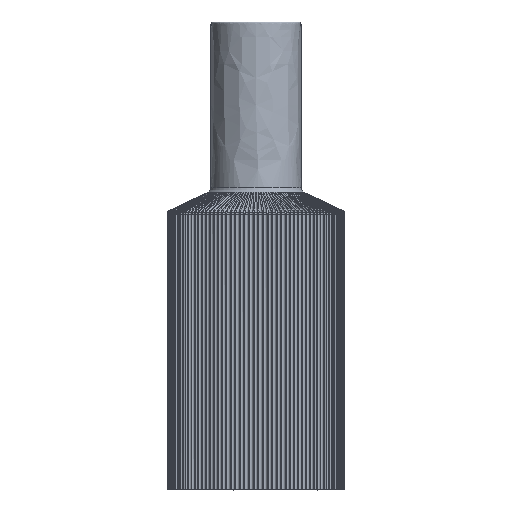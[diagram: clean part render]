
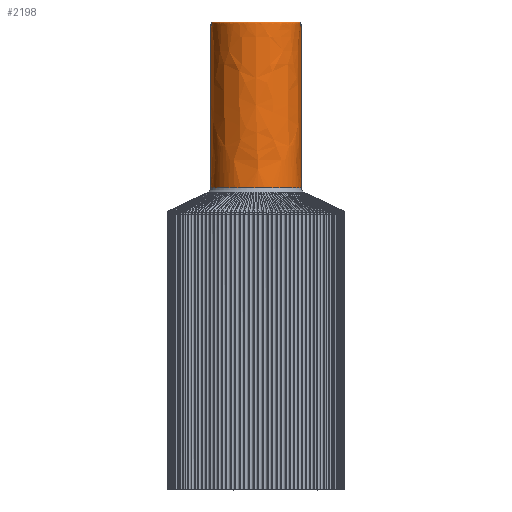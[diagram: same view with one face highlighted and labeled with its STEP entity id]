
A CAD part, front view. The second image highlights one B-rep face of the part: STEP entity #2198.
In plain terms, the highlighted free-form (B-spline) face has degree [2, 2] with [13, 5] control points.
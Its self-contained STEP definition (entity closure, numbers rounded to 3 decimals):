
#2198=ADVANCED_FACE('',(#2932),#12581,.T.);
#2932=FACE_OUTER_BOUND('',#3666,.T.);
#3666=EDGE_LOOP('',(#6584,#6585,#6586,#6587));
#6584=ORIENTED_EDGE('',*,*,#9267,.F.);
#6585=ORIENTED_EDGE('',*,*,#9264,.T.);
#6586=ORIENTED_EDGE('',*,*,#9277,.F.);
#6587=ORIENTED_EDGE('',*,*,#9276,.F.);
#9264=EDGE_CURVE('',#11843,#11846,#10376,.T.);
#9267=EDGE_CURVE('',#11843,#11849,#10378,.T.);
#9276=EDGE_CURVE('',#11849,#11850,#10386,.T.);
#9277=EDGE_CURVE('',#11850,#11846,#10387,.T.);
#10376=(
BOUNDED_CURVE()
B_SPLINE_CURVE(2,(#33861,#33862,#33863,#33864,#33865,#33866,#33867),
 .UNSPECIFIED.,.F.,.F.)
B_SPLINE_CURVE_WITH_KNOTS((3,2,2,3),(280.817,282.292,
376.896,376.919),.UNSPECIFIED.)
CURVE()
GEOMETRIC_REPRESENTATION_ITEM()
RATIONAL_B_SPLINE_CURVE((1.,0.74,1.,1.,1.,1.,
1.))
REPRESENTATION_ITEM('')
);
#10378=(
BOUNDED_CURVE()
B_SPLINE_CURVE(2,(#33875,#33876,#33877,#33878,#33879),.UNSPECIFIED.,.F.,
 .F.)
B_SPLINE_CURVE_WITH_KNOTS((3,2,3),(0.,80.618,161.235),
 .UNSPECIFIED.)
CURVE()
GEOMETRIC_REPRESENTATION_ITEM()
RATIONAL_B_SPLINE_CURVE((1.,0.707,1.,0.707,1.))
REPRESENTATION_ITEM('')
);
#10386=(
BOUNDED_CURVE()
B_SPLINE_CURVE(2,(#33921,#33922,#33923,#33924,#33925,#33926,#33927),
 .UNSPECIFIED.,.F.,.F.)
B_SPLINE_CURVE_WITH_KNOTS((3,2,2,3),(280.817,282.292,
376.896,376.919),.UNSPECIFIED.)
CURVE()
GEOMETRIC_REPRESENTATION_ITEM()
RATIONAL_B_SPLINE_CURVE((1.,0.74,1.,1.,1.,1.,
1.))
REPRESENTATION_ITEM('')
);
#10387=(
BOUNDED_CURVE()
B_SPLINE_CURVE(2,(#33928,#33929,#33930,#33931,#33932),.UNSPECIFIED.,.F.,
 .F.)
B_SPLINE_CURVE_WITH_KNOTS((3,2,3),(-161.235,-80.618,
0.),.UNSPECIFIED.)
CURVE()
GEOMETRIC_REPRESENTATION_ITEM()
RATIONAL_B_SPLINE_CURVE((1.,0.707,1.,0.707,1.))
REPRESENTATION_ITEM('')
);
#11843=VERTEX_POINT('',#33853);
#11846=VERTEX_POINT('',#33856);
#11849=VERTEX_POINT('',#33859);
#11850=VERTEX_POINT('',#33860);
#12581=(
BOUNDED_SURFACE()
B_SPLINE_SURFACE(2,2,((#33637,#33638,#33639,#33640,#33641),(#33642,#33643,
#33644,#33645,#33646),(#33647,#33648,#33649,#33650,#33651),(#33652,#33653,
#33654,#33655,#33656),(#33657,#33658,#33659,#33660,#33661),(#33662,#33663,
#33664,#33665,#33666),(#33667,#33668,#33669,#33670,#33671),(#33672,#33673,
#33674,#33675,#33676),(#33677,#33678,#33679,#33680,#33681),(#33682,#33683,
#33684,#33685,#33686),(#33687,#33688,#33689,#33690,#33691),(#33692,#33693,
#33694,#33695,#33696),(#33697,#33698,#33699,#33700,#33701)),
 .UNSPECIFIED.,.F.,.F.,.F.)
B_SPLINE_SURFACE_WITH_KNOTS((3,2,2,2,2,2,3),(3,2,3),(280.817,282.292,
376.896,380.304,404.724,408.132,566.98),
(0.,80.618,161.235),.UNSPECIFIED.)
GEOMETRIC_REPRESENTATION_ITEM()
RATIONAL_B_SPLINE_SURFACE(((1.,0.707,1.,0.707,1.),
(0.74,0.523,0.74,0.523,
0.74),(1.,0.707,1.,0.707,1.),(1.,0.707,
1.,0.707,1.),(1.,0.707,1.,0.707,1.),
(0.843,0.596,0.843,0.596,
0.843),(1.,0.707,1.,0.707,1.),(1.,0.707,
1.,0.707,1.),(1.,0.707,1.,0.707,1.),
(0.843,0.596,0.843,0.596,
0.843),(1.,0.707,1.,0.707,1.),(1.,0.707,
1.,0.707,1.),(1.,0.707,1.,0.707,1.)))
REPRESENTATION_ITEM('')
SURFACE()
);
#33637=CARTESIAN_POINT('',(-19.706,44.141,237.213));
#33638=CARTESIAN_POINT('',(-19.706,22.122,237.213));
#33639=CARTESIAN_POINT('',(2.313,22.122,237.213));
#33640=CARTESIAN_POINT('',(24.332,22.122,237.213));
#33641=CARTESIAN_POINT('',(24.332,44.141,237.213));
#33642=CARTESIAN_POINT('',(-20.5,44.141,237.137));
#33643=CARTESIAN_POINT('',(-20.5,21.327,237.137));
#33644=CARTESIAN_POINT('',(2.313,21.327,237.137));
#33645=CARTESIAN_POINT('',(25.127,21.327,237.137));
#33646=CARTESIAN_POINT('',(25.127,44.141,237.137));
#33647=CARTESIAN_POINT('',(-20.5,44.141,236.338));
#33648=CARTESIAN_POINT('',(-20.5,21.327,236.338));
#33649=CARTESIAN_POINT('',(2.313,21.327,236.338));
#33650=CARTESIAN_POINT('',(25.127,21.327,236.338));
#33651=CARTESIAN_POINT('',(25.127,44.141,236.338));
#33652=CARTESIAN_POINT('',(-20.5,44.141,194.788));
#33653=CARTESIAN_POINT('',(-20.5,21.327,194.788));
#33654=CARTESIAN_POINT('',(2.313,21.327,194.788));
#33655=CARTESIAN_POINT('',(25.127,21.327,194.788));
#33656=CARTESIAN_POINT('',(25.127,44.141,194.788));
#33657=CARTESIAN_POINT('',(-20.5,44.141,153.237));
#33658=CARTESIAN_POINT('',(-20.5,21.327,153.237));
#33659=CARTESIAN_POINT('',(2.313,21.327,153.237));
#33660=CARTESIAN_POINT('',(25.127,21.327,153.237));
#33661=CARTESIAN_POINT('',(25.127,44.141,153.237));
#33662=CARTESIAN_POINT('',(-20.5,44.141,151.555));
#33663=CARTESIAN_POINT('',(-20.5,21.327,151.555));
#33664=CARTESIAN_POINT('',(2.313,21.327,151.555));
#33665=CARTESIAN_POINT('',(25.127,21.327,151.555));
#33666=CARTESIAN_POINT('',(25.127,44.141,151.555));
#33667=CARTESIAN_POINT('',(-22.026,44.141,150.847));
#33668=CARTESIAN_POINT('',(-22.026,19.802,150.847));
#33669=CARTESIAN_POINT('',(2.313,19.802,150.847));
#33670=CARTESIAN_POINT('',(26.652,19.802,150.847));
#33671=CARTESIAN_POINT('',(26.652,44.141,150.847));
#33672=CARTESIAN_POINT('',(-31.635,44.141,146.384));
#33673=CARTESIAN_POINT('',(-31.635,10.193,146.384));
#33674=CARTESIAN_POINT('',(2.313,10.193,146.384));
#33675=CARTESIAN_POINT('',(36.262,10.193,146.384));
#33676=CARTESIAN_POINT('',(36.262,44.141,146.384));
#33677=CARTESIAN_POINT('',(-41.244,44.141,141.922));
#33678=CARTESIAN_POINT('',(-41.244,0.583,141.922));
#33679=CARTESIAN_POINT('',(2.313,0.583,141.922));
#33680=CARTESIAN_POINT('',(45.871,0.583,141.922));
#33681=CARTESIAN_POINT('',(45.871,44.141,141.922));
#33682=CARTESIAN_POINT('',(-42.77,44.141,141.214));
#33683=CARTESIAN_POINT('',(-42.77,-0.942,141.214));
#33684=CARTESIAN_POINT('',(2.313,-0.942,141.214));
#33685=CARTESIAN_POINT('',(47.396,-0.942,141.214));
#33686=CARTESIAN_POINT('',(47.396,44.141,141.214));
#33687=CARTESIAN_POINT('',(-42.77,44.141,139.532));
#33688=CARTESIAN_POINT('',(-42.77,-0.942,139.532));
#33689=CARTESIAN_POINT('',(2.313,-0.942,139.532));
#33690=CARTESIAN_POINT('',(47.396,-0.942,139.532));
#33691=CARTESIAN_POINT('',(47.396,44.141,139.532));
#33692=CARTESIAN_POINT('',(-42.768,44.141,69.766));
#33693=CARTESIAN_POINT('',(-42.768,-0.941,69.766));
#33694=CARTESIAN_POINT('',(2.313,-0.941,69.766));
#33695=CARTESIAN_POINT('',(47.395,-0.941,69.766));
#33696=CARTESIAN_POINT('',(47.395,44.141,69.766));
#33697=CARTESIAN_POINT('',(-42.766,44.141,0.));
#33698=CARTESIAN_POINT('',(-42.766,-0.939,0.));
#33699=CARTESIAN_POINT('',(2.313,-0.939,0.));
#33700=CARTESIAN_POINT('',(47.393,-0.939,0.));
#33701=CARTESIAN_POINT('',(47.393,44.141,0.));
#33853=CARTESIAN_POINT('',(-19.706,44.141,237.213));
#33856=CARTESIAN_POINT('',(-20.5,44.141,153.216));
#33859=CARTESIAN_POINT('',(24.332,44.141,237.213));
#33860=CARTESIAN_POINT('',(25.127,44.141,153.216));
#33861=CARTESIAN_POINT('',(-19.706,44.141,237.213));
#33862=CARTESIAN_POINT('',(-20.5,44.141,237.137));
#33863=CARTESIAN_POINT('',(-20.5,44.141,236.338));
#33864=CARTESIAN_POINT('',(-20.5,44.141,194.788));
#33865=CARTESIAN_POINT('',(-20.5,44.141,153.237));
#33866=CARTESIAN_POINT('',(-20.5,44.141,153.227));
#33867=CARTESIAN_POINT('',(-20.5,44.141,153.216));
#33875=CARTESIAN_POINT('',(-19.706,44.141,237.213));
#33876=CARTESIAN_POINT('',(-19.706,22.122,237.213));
#33877=CARTESIAN_POINT('',(2.313,22.122,237.213));
#33878=CARTESIAN_POINT('',(24.332,22.122,237.213));
#33879=CARTESIAN_POINT('',(24.332,44.141,237.213));
#33921=CARTESIAN_POINT('',(24.332,44.141,237.213));
#33922=CARTESIAN_POINT('',(25.127,44.141,237.137));
#33923=CARTESIAN_POINT('',(25.127,44.141,236.338));
#33924=CARTESIAN_POINT('',(25.127,44.141,194.788));
#33925=CARTESIAN_POINT('',(25.127,44.141,153.237));
#33926=CARTESIAN_POINT('',(25.127,44.141,153.227));
#33927=CARTESIAN_POINT('',(25.127,44.141,153.216));
#33928=CARTESIAN_POINT('',(25.127,44.141,153.216));
#33929=CARTESIAN_POINT('',(25.127,21.327,153.216));
#33930=CARTESIAN_POINT('',(2.313,21.327,153.216));
#33931=CARTESIAN_POINT('',(-20.5,21.327,153.216));
#33932=CARTESIAN_POINT('',(-20.5,44.141,153.216));
